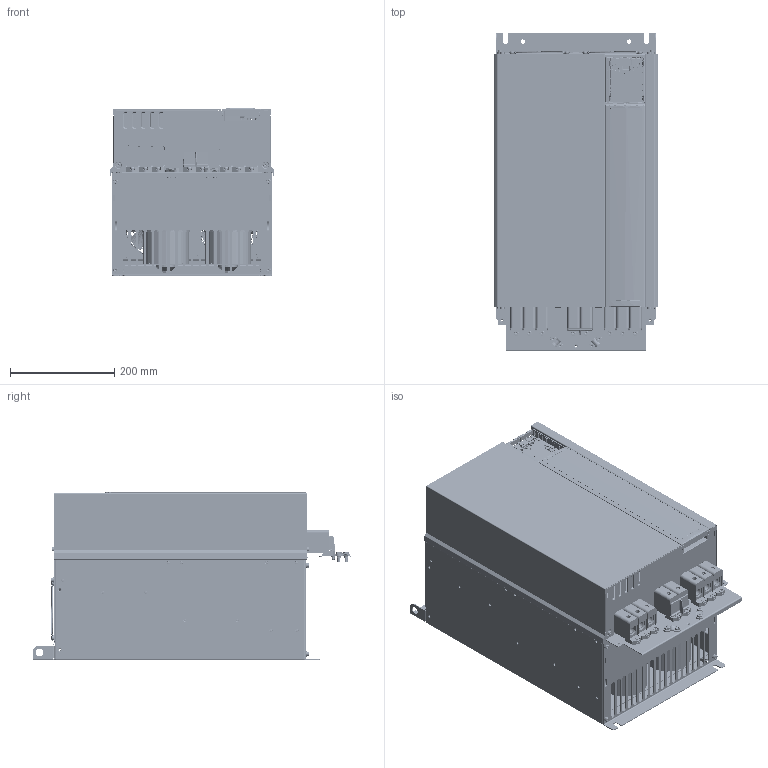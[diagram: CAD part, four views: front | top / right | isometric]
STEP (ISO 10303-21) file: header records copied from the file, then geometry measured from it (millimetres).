
FILE_DESCRIPTION((''),'2;1');
FILE_NAME('FC_360_J7_IP20_STP_3D_ASM','2020-06-08T',('U381356'),('Danfoss Power Electronics'),'CREO PARAMETRIC BY PTC INC, 2018070','CREO PARAMETRIC BY PTC INC, 2018070','');
FILE_SCHEMA(('CONFIG_CONTROL_DESIGN','GEOMETRIC_VALIDATION_PROPERTIES_MIM'));
Products named in the file (85): 132B3689_SHEETMETAL_1; STANDOFF_SO_M5_12_1; 132B3689_ASM_1_ASM; 132B3691_1; 132B3692_1_1; 132B3692_1_2; 132B3692_1_3; 132B3692_1_4; 132B3692_1_ASM; 132B3693_1; 132B3694_1; 132B3690_ASM_1_ASM; 132B3696_1; 132B3697_1_1; 132B3697_1_2; 132B3697_1_3; 132B3697_1_4; 132B3697_1_ASM; 132B3695_ASM_1_ASM; 640F0121_1_1; 640F0121_1_2; 640F0121_1_ASM; 132B3702_1; 681X9161_1; 132B3703_1_2; 132B3703_1_3; 132B3703_1_4; 132B3703_1_5; 132B3703_1_ASM; 132B3705_1; 132B5322_1; 175Z3359_1; 132B3630_1; 132B4402_1; 132B9007_ASM_1_ASM; 132B4397_1; 132B4374_1; 132B3711_1; 132B3729_1; 132B3727_1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
Assembly tree (161 placements, depth 6):
  FC_360_J7_IP20_STP_3D_ASM
    EMD_J7_ASM_1_ASM
      132B3689_ASM_1_ASM
        132B3689_SHEETMETAL_1
        STANDOFF_SO_M5_12_1  x8
      132B3690_ASM_1_ASM
        132B3691_1
        132B3692_1_ASM
          132B3692_1_1
          132B3692_1_2
          132B3692_1_3
          132B3692_1_4
        132B3693_1
        132B3694_1
      132B3695_ASM_1_ASM
        132B3696_1
        132B3697_1_ASM
          132B3697_1_1
          132B3697_1_2
          132B3697_1_3
          132B3697_1_4
        132B3693_1
        132B3694_1
      640F0121_1_ASM  x32
        640F0121_1_1
        640F0121_1_2
      132B3702_1
      681X9161_1  x4
      132B3703_1_ASM
        132B3703_1_2
        132B3703_1_3
        132B3703_1_4
        132B3703_1_5
      132B9007_ASM_1_ASM
        132B3705_1
        132B5322_1  x2
        175Z3359_1  x2
        132B3630_1  x2
        132B4402_1  x2
      132B4397_1
      132B4374_1  x2
      132B3711_1
      132B3728_ASM_1_ASM
        132B3729_1
        132B3727_1
      ENSTO_KE62_984L9817_1  x8
      175F0413_1  x2
      681X1343_1  x4
      132B4401_1
      132B9008_ASM_1_ASM
        132B3706_1
        132B3707_1_ASM  x2
          132B3707_1_1
          132B3707_1_2
          132B3707_1_3
          132B3707_1_4
          132B3707_1_5
          132B3707_1_6
          132B3707_1_7
          132B3707_1_8
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Bounding box: 314.99 x 610.5 x 323.01 mm (x, y, z)
Volume: 4217781.3 mm3; surface area: 3386186.7 mm2
Topology: 192 solids, 192 shells, 23776 faces, 63813 edges, 40775 vertices
Faces by surface type: plane 13616, cylinder 6402, cone 1212, torus 1192, bspline 1086, sphere 200, revolution 44, extrusion 24
Entity records: 782615 total; most frequent: CARTESIAN_POINT 168304, ORIENTED_EDGE 104356, DIRECTION 94894, EDGE_CURVE 52178, PRESENTATION_STYLE_ASSIGNMENT 42259, STYLED_ITEM 42021, CURVE_STYLE 41913, VERTEX_POINT 33358
